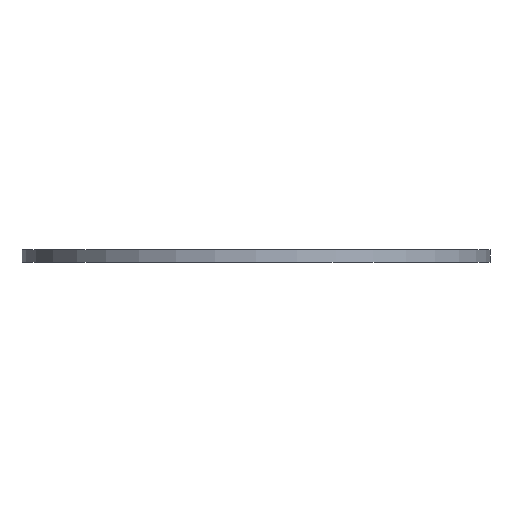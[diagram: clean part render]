
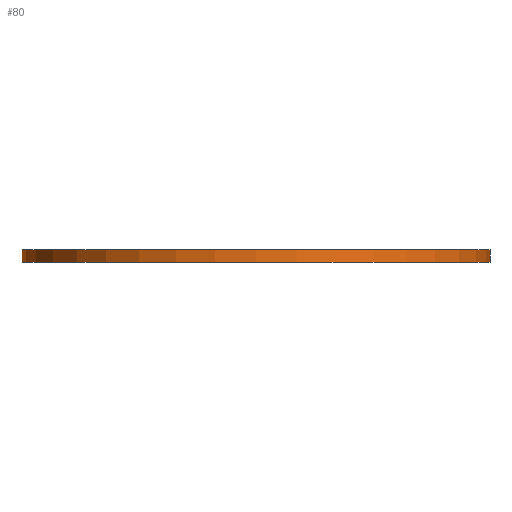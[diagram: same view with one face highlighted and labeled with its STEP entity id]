
A CAD part, front view. The second image highlights one B-rep face of the part: STEP entity #80.
In plain terms, the highlighted cylindrical face has radius 110 mm (diameter 220 mm), a full revolution.
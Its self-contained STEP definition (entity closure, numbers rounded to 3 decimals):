
#80 = ADVANCED_FACE( '', ( #195, #196 ), #197, .T. );
#195 = FACE_OUTER_BOUND( '', #404, .T. );
#196 = FACE_OUTER_BOUND( '', #405, .T. );
#197 = CYLINDRICAL_SURFACE( '', #406, 110. );
#404 = EDGE_LOOP( '', ( #621 ) );
#405 = EDGE_LOOP( '', ( #622 ) );
#406 = AXIS2_PLACEMENT_3D( '', #623, #624, #625 );
#621 = ORIENTED_EDGE( '', *, *, #903, .T. );
#622 = ORIENTED_EDGE( '', *, *, #904, .F. );
#623 = CARTESIAN_POINT( '', ( 0., 0., 6. ) );
#624 = DIRECTION( '', ( 0., 0., 1. ) );
#625 = DIRECTION( '', ( -1., 0., 0. ) );
#903 = EDGE_CURVE( '', #1026, #1026, #1027, .T. );
#904 = EDGE_CURVE( '', #1028, #1028, #1029, .T. );
#1026 = VERTEX_POINT( '', #1200 );
#1027 = CIRCLE( '', #1201, 110. );
#1028 = VERTEX_POINT( '', #1202 );
#1029 = CIRCLE( '', #1203, 110. );
#1200 = CARTESIAN_POINT( '', ( 110., 0., 6. ) );
#1201 = AXIS2_PLACEMENT_3D( '', #1387, #1388, #1389 );
#1202 = CARTESIAN_POINT( '', ( 110., 0., 0. ) );
#1203 = AXIS2_PLACEMENT_3D( '', #1390, #1391, #1392 );
#1387 = CARTESIAN_POINT( '', ( 0., 0., 6. ) );
#1388 = DIRECTION( '', ( 0., 0., -1. ) );
#1389 = DIRECTION( '', ( 1., 0., 0. ) );
#1390 = CARTESIAN_POINT( '', ( 0., 0., 0. ) );
#1391 = DIRECTION( '', ( 0., 0., -1. ) );
#1392 = DIRECTION( '', ( 1., 0., 0. ) );
